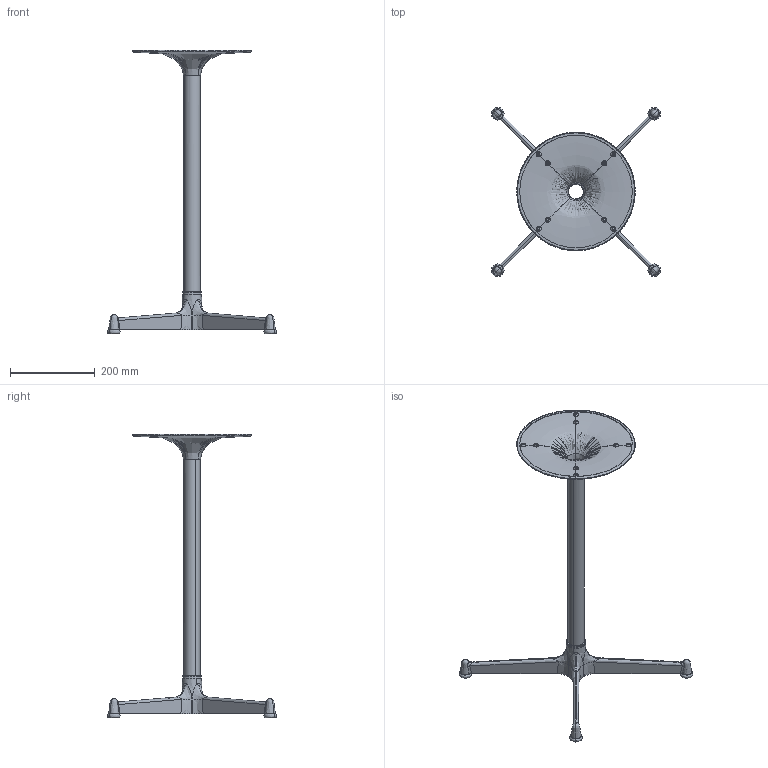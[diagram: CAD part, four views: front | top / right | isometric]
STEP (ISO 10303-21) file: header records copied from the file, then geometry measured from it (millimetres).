
FILE_DESCRIPTION(/* description */ (''),/* implementation_level */ '2;1');
FILE_NAME(/* name */ 'kinoshita_coccole_cl01a',/* time_stamp */ '2025-05-09T11:23:37+09:00',/* author */ (''),/* organization */ (''),/* preprocessor_version */ 'ST-DEVELOPER v16.5',/* originating_system */ '',/* authorisation */ '');
FILE_SCHEMA (('AUTOMOTIVE_DESIGN'));
Length unit declared in the file: millimetre
Products named in the file (1): Document
Bounding box: 399.74 x 399.74 x 670.02 mm (x, y, z)
Volume: 422408 mm3; surface area: 382188.7 mm2
Topology: 1 solids, 1 shells, 175 faces, 459 edges, 257 vertices
Faces by surface type: bspline 162, plane 13
Entity records: 14613 total; most frequent: CARTESIAN_POINT 12042, ORIENTED_EDGE 886, EDGE_CURVE 443, B_SPLINE_CURVE_WITH_KNOTS 322, VERTEX_POINT 257, EDGE_LOOP 184, ADVANCED_FACE 175, FACE_OUTER_BOUND 175
